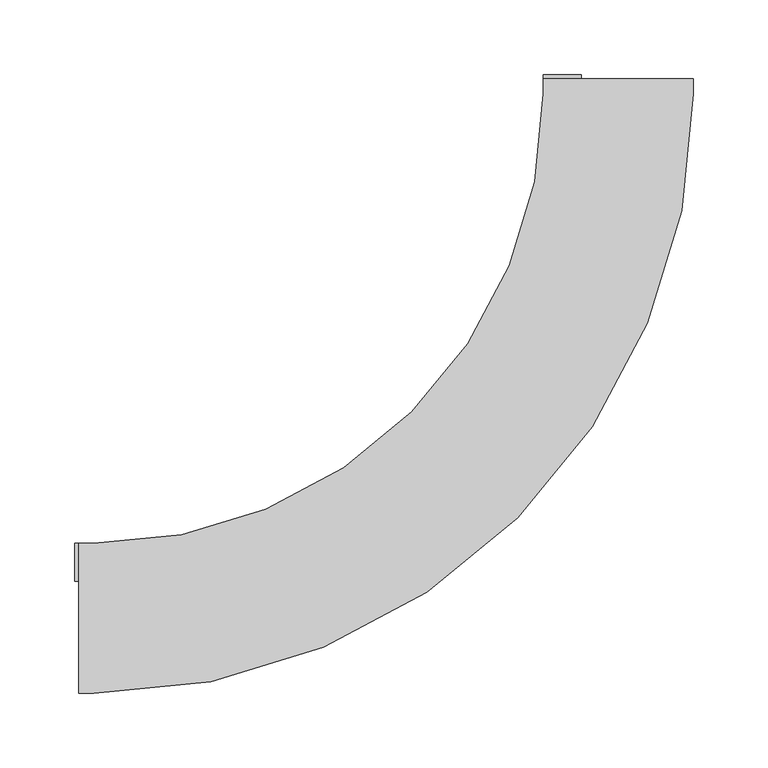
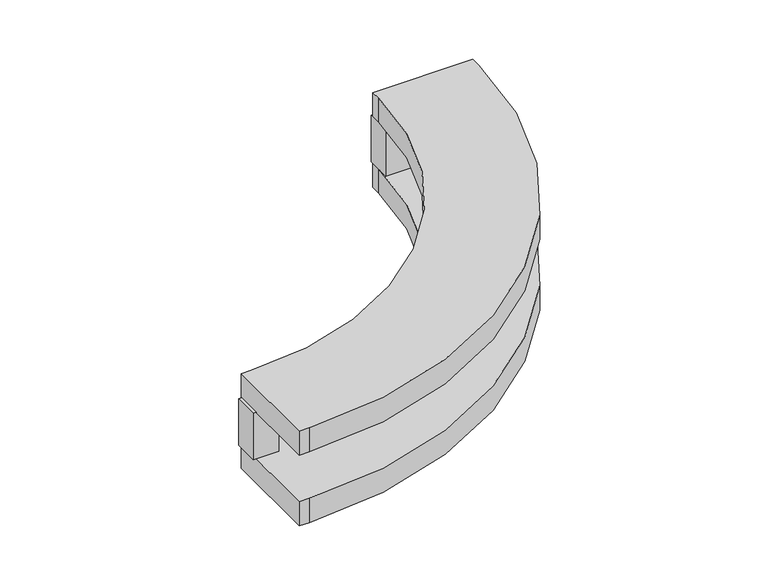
"""IFC4 building model written with IfcOpenShell, lengths in millimetres: cable carrier fitting geometry, ADSK_Поворот вертикальный наружный_Лестничный лоток : Радиус 300 мм."""

from ifc_helpers import new_model, si_unit, point, frame, frame_2d, origin, place, context, project, spatial, polyline, circle_curve, trimmed, segment, composite_curve, outline, extrude, source, transform, mapped, element, save


def cable_carrier_fitting_dddc52f9(model_context):
    return source(origin(), model_context, "Body", "SweptSolid", [
        extrude(outline(polyline([(-50.0, 362.7), (-24.6, 362.7), (-24.6, 337.3), (-50.0, 337.3), (-50.0, 362.7)])), frame((0.0, 0.0, -24.6), z_axis=(0.0, 0.0, 1.0), x_axis=(1.0, 0.0, 0.0)), (0.0, 0.0, 1.0), 49.2),
        extrude(outline(polyline([(-128.8877095, 146.8482218), (-110.9271973, 128.8877095), (-128.8877095, 110.9271973), (-146.8482218, 128.8877095), (-128.8877095, 146.8482218)])), frame((0.0, 0.0, -24.6), z_axis=(0.0, 0.0, 1.0), x_axis=(1.0, 0.0, 0.0)), (0.0, 0.0, 1.0), 49.2),
        extrude(outline(polyline([(-362.7, 24.6), (-362.7, 50.0), (-337.3, 50.0), (-337.3, 24.6), (-362.7, 24.6)])), frame((0.0, 0.0, -24.6), z_axis=(0.0, 0.0, 1.0), x_axis=(1.0, 0.0, 0.0)), (0.0, 0.0, 1.0), 49.2),
        extrude(outline(composite_curve([segment(polyline([(-360.0, -50.0), (-360.0, 50.0), (-350.0, 50.0)]), True, "CONTINUOUS"), segment(trimmed(circle_curve(frame_2d((-350.0, 350.0)), 300.0), [point((-350.0, 50.0))], [point((-50.0, 350.0))], True, "CARTESIAN"), True, "CONTINUOUS"), segment(polyline([(-50.0, 350.0), (-50.0, 360.0), (50.0, 360.0), (50.0, 350.0)]), True, "CONTINUOUS"), segment(trimmed(circle_curve(frame_2d((-350.0, 350.0)), 400.0), [point((50.0, 350.0))], [point((-350.0, -50.0))], False, "CARTESIAN"), True, "CONTINUOUS"), segment(polyline([(-350.0, -50.0), (-360.0, -50.0)]), True, "CONTINUOUS")], self_intersect=False)), frame((0.0, 0.0, 24.6), z_axis=(0.0, 0.0, 1.0), x_axis=(1.0, 0.0, 0.0)), (0.0, 0.0, 1.0), 25.4),
        extrude(outline(composite_curve([segment(polyline([(-360.0, -50.0), (-360.0, 50.0), (-350.0, 50.0)]), True, "CONTINUOUS"), segment(trimmed(circle_curve(frame_2d((-350.0, 350.0)), 300.0), [point((-350.0, 50.0))], [point((-50.0, 350.0))], True, "CARTESIAN"), True, "CONTINUOUS"), segment(polyline([(-50.0, 350.0), (-50.0, 360.0), (50.0, 360.0), (50.0, 350.0)]), True, "CONTINUOUS"), segment(trimmed(circle_curve(frame_2d((-350.0, 350.0)), 400.0), [point((50.0, 350.0))], [point((-350.0, -50.0))], False, "CARTESIAN"), True, "CONTINUOUS"), segment(polyline([(-350.0, -50.0), (-360.0, -50.0)]), True, "CONTINUOUS")], self_intersect=False)), frame((0.0, 0.0, -50.0), z_axis=(0.0, 0.0, 1.0), x_axis=(1.0, 0.0, 0.0)), (0.0, 0.0, 1.0), 25.4),
    ])


if __name__ == "__main__":
    model = new_model("IFC4")
    model_context = context("Model", 3, world=origin())
    ifc_project = project(units=[si_unit("LENGTHUNIT", "METRE", prefix="MILLI")], contexts=[model_context])
    site = spatial("IfcSite", under=ifc_project)
    building = spatial("IfcBuilding", under=site)
    placement = place(None, origin())
    cable_carrier_fitting_shape = cable_carrier_fitting_dddc52f9(model_context)
    element("IfcCableCarrierFitting", 1, ObjectType="ADSK_Поворот вертикальный наружный_Лестничный лоток : Радиус 300 мм", at=placement, inside=building, context=model_context, shape_type="MappedRepresentation", body=[
        mapped(cable_carrier_fitting_shape, transform((0.0, 0.0, 0.0), x_axis=(1.0, 0.0, 0.0), y_axis=(0.0, 1.0, 0.0), z_axis=(0.0, 0.0, 1.0))),
    ])
    save(model, "model.ifc")
